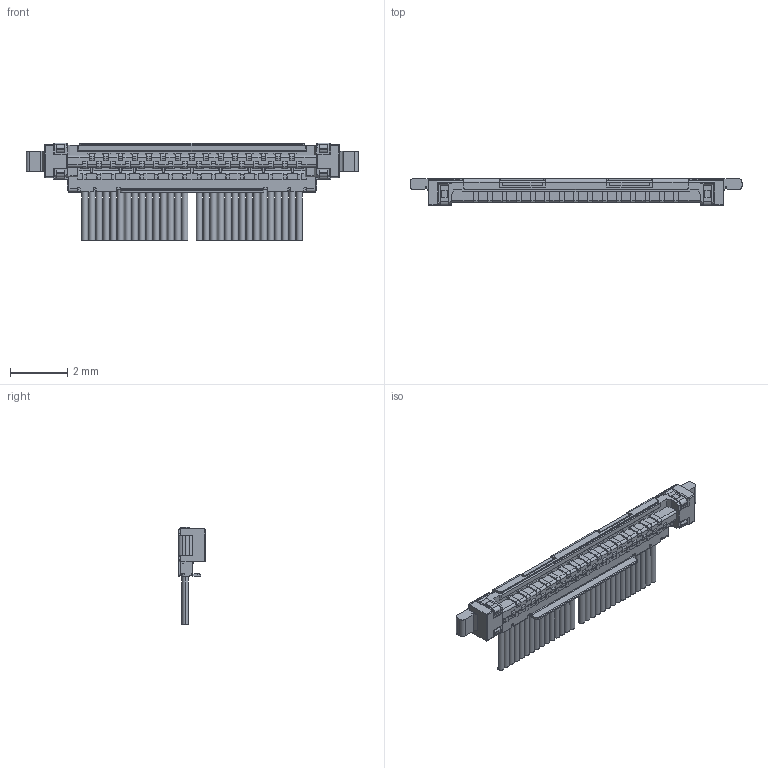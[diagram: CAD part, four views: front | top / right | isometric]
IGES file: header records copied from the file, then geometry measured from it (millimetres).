
Start section: SolidWorks IGES file using analytic representation for surfaces
Global section: file name: C:\Working\koyanagi\CABLINE-UX II\251222 CABLINE-UX II_Web用中間ファイル\IGES\20531-030T-02-1C CABLINE-UX II PLUG CABLE ASSEMBLY_IGES_R4R1_ALL.IGS; native system: SolidWorks 2023; preprocessor: SolidWorks 2023; author: 09051; date: 251226.101546; units: millimetre
Bounding box: 11.6 x 0.94 x 3.41 mm (x, y, z)
Surface area: 102.7 mm2 (no closed solid volume)
Topology: 0 solids, 0 shells, 908 faces, 6416 edges, 6416 vertices
Faces by surface type: bspline 683, revolution 225
